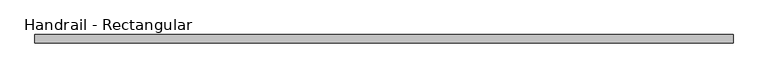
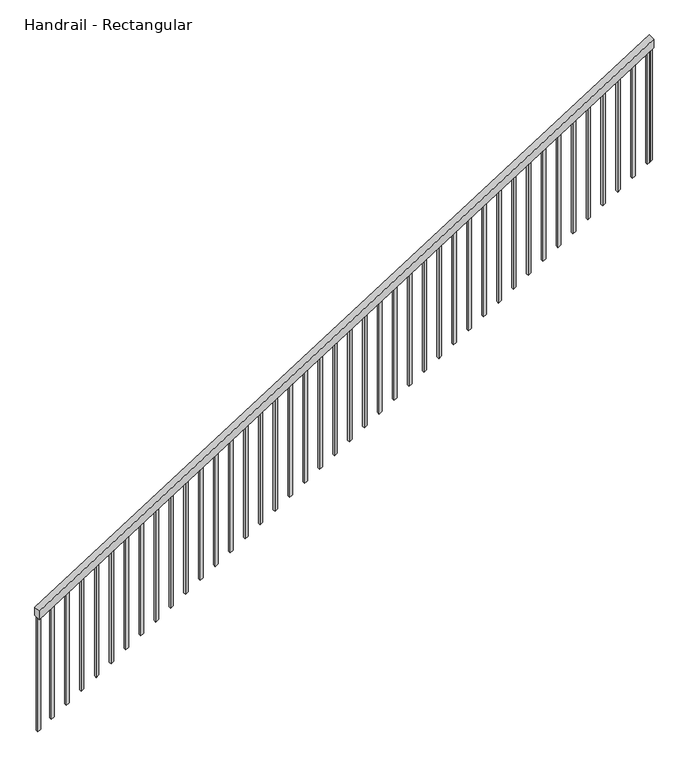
"""IFC4 building model written with IfcOpenShell, lengths in millimetres: railing geometry, Handrail - Rectangular."""

from ifc_helpers import new_model, si_unit, frame, origin, place, context, project, spatial, polyline, outline, extrude, source, transform, mapped, element, save


def handrail_rectangular_0f75e75e(model_context):
    return source(origin(), model_context, "Body", "SweptSolid", [
        extrude(outline(polyline([(914.4, 91186.1359071), (854.2661249, 91186.1359071), (3508.9758023, 95377.1359071), (3569.1096774, 95377.1359071), (914.4, 91186.1359071)])), frame((0.0, -26615.6485124, 0.0), z_axis=(0.0, 1.0, 0.0), x_axis=(0.0, 0.0, 1.0)), (0.0, 0.0, 1.0), 50.8),
        extrude(outline(polyline([(3498.9200838, 95361.2609071), (3486.8532217, 95342.2109071), (2670.3309214, 95342.2109071), (2682.3977835, 95361.2609071), (3498.9200838, 95361.2609071)])), frame((0.0, -26599.7735124, 0.0), z_axis=(0.0, 1.0, 0.0), x_axis=(0.0, 0.0, 1.0)), (0.0, 0.0, 1.0), 19.05),
        extrude(outline(polyline([(3434.5634856, 95259.6609071), (3422.4966234, 95240.6109071), (2605.9743231, 95240.6109071), (2618.0411853, 95259.6609071), (3434.5634856, 95259.6609071)])), frame((0.0, -26599.7735124, 0.0), z_axis=(0.0, 1.0, 0.0), x_axis=(0.0, 0.0, 1.0)), (0.0, 0.0, 1.0), 19.05),
        extrude(outline(polyline([(3370.2068874, 95158.0609071), (3358.1400252, 95139.0109071), (2541.6177249, 95139.0109071), (2553.6845871, 95158.0609071), (3370.2068874, 95158.0609071)])), frame((0.0, -26599.7735124, 0.0), z_axis=(0.0, 1.0, 0.0), x_axis=(0.0, 0.0, 1.0)), (0.0, 0.0, 1.0), 19.05),
        extrude(outline(polyline([(3305.8502891, 95056.4609071), (3293.783427, 95037.4109071), (2477.2611267, 95037.4109071), (2489.3279888, 95056.4609071), (3305.8502891, 95056.4609071)])), frame((0.0, -26599.7735124, 0.0), z_axis=(0.0, 1.0, 0.0), x_axis=(0.0, 0.0, 1.0)), (0.0, 0.0, 1.0), 19.05),
        extrude(outline(polyline([(3241.4936909, 94954.8609071), (3229.4268287, 94935.8109071), (2412.9045284, 94935.8109071), (2424.9713906, 94954.8609071), (3241.4936909, 94954.8609071)])), frame((0.0, -26599.7735124, 0.0), z_axis=(0.0, 1.0, 0.0), x_axis=(0.0, 0.0, 1.0)), (0.0, 0.0, 1.0), 19.05),
        extrude(outline(polyline([(3177.1370926, 94853.2609071), (3165.0702305, 94834.2109071), (2348.5479302, 94834.2109071), (2360.6147923, 94853.2609071), (3177.1370926, 94853.2609071)])), frame((0.0, -26599.7735124, 0.0), z_axis=(0.0, 1.0, 0.0), x_axis=(0.0, 0.0, 1.0)), (0.0, 0.0, 1.0), 19.05),
        extrude(outline(polyline([(3112.7804944, 94751.6609071), (3100.7136322, 94732.6109071), (2284.1913319, 94732.6109071), (2296.2581941, 94751.6609071), (3112.7804944, 94751.6609071)])), frame((0.0, -26599.7735124, 0.0), z_axis=(0.0, 1.0, 0.0), x_axis=(0.0, 0.0, 1.0)), (0.0, 0.0, 1.0), 19.05),
        extrude(outline(polyline([(3048.4238962, 94650.0609071), (3036.357034, 94631.0109071), (2219.8347337, 94631.0109071), (2231.9015959, 94650.0609071), (3048.4238962, 94650.0609071)])), frame((0.0, -26599.7735124, 0.0), z_axis=(0.0, 1.0, 0.0), x_axis=(0.0, 0.0, 1.0)), (0.0, 0.0, 1.0), 19.05),
        extrude(outline(polyline([(2984.0672979, 94548.4609071), (2972.0004358, 94529.4109071), (2155.4781355, 94529.4109071), (2167.5449976, 94548.4609071), (2984.0672979, 94548.4609071)])), frame((0.0, -26599.7735124, 0.0), z_axis=(0.0, 1.0, 0.0), x_axis=(0.0, 0.0, 1.0)), (0.0, 0.0, 1.0), 19.05),
        extrude(outline(polyline([(2919.7106997, 94446.8609071), (2907.6438375, 94427.8109071), (2091.1215372, 94427.8109071), (2103.1883994, 94446.8609071), (2919.7106997, 94446.8609071)])), frame((0.0, -26599.7735124, 0.0), z_axis=(0.0, 1.0, 0.0), x_axis=(0.0, 0.0, 1.0)), (0.0, 0.0, 1.0), 19.05),
        extrude(outline(polyline([(2855.3541014, 94345.2609071), (2843.2872393, 94326.2109071), (2026.764939, 94326.2109071), (2038.8318011, 94345.2609071), (2855.3541014, 94345.2609071)])), frame((0.0, -26599.7735124, 0.0), z_axis=(0.0, 1.0, 0.0), x_axis=(0.0, 0.0, 1.0)), (0.0, 0.0, 1.0), 19.05),
        extrude(outline(polyline([(2790.9975032, 94243.6609071), (2778.930641, 94224.6109071), (1962.4083407, 94224.6109071), (1974.4752029, 94243.6609071), (2790.9975032, 94243.6609071)])), frame((0.0, -26599.7735124, 0.0), z_axis=(0.0, 1.0, 0.0), x_axis=(0.0, 0.0, 1.0)), (0.0, 0.0, 1.0), 19.05),
        extrude(outline(polyline([(2726.640905, 94142.0609071), (2714.5740428, 94123.0109071), (1898.0517425, 94123.0109071), (1910.1186047, 94142.0609071), (2726.640905, 94142.0609071)])), frame((0.0, -26599.7735124, 0.0), z_axis=(0.0, 1.0, 0.0), x_axis=(0.0, 0.0, 1.0)), (0.0, 0.0, 1.0), 19.05),
        extrude(outline(polyline([(2662.2843067, 94040.4609071), (2650.2174446, 94021.4109071), (1833.6951443, 94021.4109071), (1845.7620064, 94040.4609071), (2662.2843067, 94040.4609071)])), frame((0.0, -26599.7735124, 0.0), z_axis=(0.0, 1.0, 0.0), x_axis=(0.0, 0.0, 1.0)), (0.0, 0.0, 1.0), 19.05),
        extrude(outline(polyline([(2597.9277085, 93938.8609071), (2585.8608463, 93919.8109071), (1769.338546, 93919.8109071), (1781.4054082, 93938.8609071), (2597.9277085, 93938.8609071)])), frame((0.0, -26599.7735124, 0.0), z_axis=(0.0, 1.0, 0.0), x_axis=(0.0, 0.0, 1.0)), (0.0, 0.0, 1.0), 19.05),
        extrude(outline(polyline([(2533.5711102, 93837.2609071), (2521.5042481, 93818.2109071), (1704.9819478, 93818.2109071), (1717.0488099, 93837.2609071), (2533.5711102, 93837.2609071)])), frame((0.0, -26599.7735124, 0.0), z_axis=(0.0, 1.0, 0.0), x_axis=(0.0, 0.0, 1.0)), (0.0, 0.0, 1.0), 19.05),
        extrude(outline(polyline([(2469.214512, 93735.6609071), (2457.1476498, 93716.6109071), (1640.6253495, 93716.6109071), (1652.6922117, 93735.6609071), (2469.214512, 93735.6609071)])), frame((0.0, -26599.7735124, 0.0), z_axis=(0.0, 1.0, 0.0), x_axis=(0.0, 0.0, 1.0)), (0.0, 0.0, 1.0), 19.05),
        extrude(outline(polyline([(2404.8579138, 93634.0609071), (2392.7910516, 93615.0109071), (1576.2687513, 93615.0109071), (1588.3356135, 93634.0609071), (2404.8579138, 93634.0609071)])), frame((0.0, -26599.7735124, 0.0), z_axis=(0.0, 1.0, 0.0), x_axis=(0.0, 0.0, 1.0)), (0.0, 0.0, 1.0), 19.05),
        extrude(outline(polyline([(2340.5013155, 93532.4609071), (2328.4344533, 93513.4109071), (1511.912153, 93513.4109071), (1523.9790152, 93532.4609071), (2340.5013155, 93532.4609071)])), frame((0.0, -26599.7735124, 0.0), z_axis=(0.0, 1.0, 0.0), x_axis=(0.0, 0.0, 1.0)), (0.0, 0.0, 1.0), 19.05),
        extrude(outline(polyline([(2276.1447173, 93430.8609071), (2264.0778551, 93411.8109071), (1447.5555548, 93411.8109071), (1459.622417, 93430.8609071), (2276.1447173, 93430.8609071)])), frame((0.0, -26599.7735124, 0.0), z_axis=(0.0, 1.0, 0.0), x_axis=(0.0, 0.0, 1.0)), (0.0, 0.0, 1.0), 19.05),
        extrude(outline(polyline([(2211.788119, 93329.2609071), (2199.7212569, 93310.2109071), (1383.1989566, 93310.2109071), (1395.2658187, 93329.2609071), (2211.788119, 93329.2609071)])), frame((0.0, -26599.7735124, 0.0), z_axis=(0.0, 1.0, 0.0), x_axis=(0.0, 0.0, 1.0)), (0.0, 0.0, 1.0), 19.05),
        extrude(outline(polyline([(2147.4315208, 93227.6609071), (2135.3646586, 93208.6109071), (1318.8423583, 93208.6109071), (1330.9092205, 93227.6609071), (2147.4315208, 93227.6609071)])), frame((0.0, -26599.7735124, 0.0), z_axis=(0.0, 1.0, 0.0), x_axis=(0.0, 0.0, 1.0)), (0.0, 0.0, 1.0), 19.05),
        extrude(outline(polyline([(2083.0749226, 93126.0609071), (2071.0080604, 93107.0109071), (1254.4857601, 93107.0109071), (1266.5526223, 93126.0609071), (2083.0749226, 93126.0609071)])), frame((0.0, -26599.7735124, 0.0), z_axis=(0.0, 1.0, 0.0), x_axis=(0.0, 0.0, 1.0)), (0.0, 0.0, 1.0), 19.05),
        extrude(outline(polyline([(2018.7183243, 93024.4609071), (2006.6514621, 93005.4109071), (1190.1291618, 93005.4109071), (1202.196024, 93024.4609071), (2018.7183243, 93024.4609071)])), frame((0.0, -26599.7735124, 0.0), z_axis=(0.0, 1.0, 0.0), x_axis=(0.0, 0.0, 1.0)), (0.0, 0.0, 1.0), 19.05),
        extrude(outline(polyline([(1954.3617261, 92922.8609071), (1942.2948639, 92903.8109071), (1125.7725636, 92903.8109071), (1137.8394258, 92922.8609071), (1954.3617261, 92922.8609071)])), frame((0.0, -26599.7735124, 0.0), z_axis=(0.0, 1.0, 0.0), x_axis=(0.0, 0.0, 1.0)), (0.0, 0.0, 1.0), 19.05),
        extrude(outline(polyline([(1890.0051278, 92821.2609071), (1877.9382657, 92802.2109071), (1061.4159654, 92802.2109071), (1073.4828275, 92821.2609071), (1890.0051278, 92821.2609071)])), frame((0.0, -26599.7735124, 0.0), z_axis=(0.0, 1.0, 0.0), x_axis=(0.0, 0.0, 1.0)), (0.0, 0.0, 1.0), 19.05),
        extrude(outline(polyline([(1825.6485296, 92719.6609071), (1813.5816674, 92700.6109071), (997.0593671, 92700.6109071), (1009.1262293, 92719.6609071), (1825.6485296, 92719.6609071)])), frame((0.0, -26599.7735124, 0.0), z_axis=(0.0, 1.0, 0.0), x_axis=(0.0, 0.0, 1.0)), (0.0, 0.0, 1.0), 19.05),
        extrude(outline(polyline([(1761.2919314, 92618.0609071), (1749.2250692, 92599.0109071), (932.7027689, 92599.0109071), (944.7696311, 92618.0609071), (1761.2919314, 92618.0609071)])), frame((0.0, -26599.7735124, 0.0), z_axis=(0.0, 1.0, 0.0), x_axis=(0.0, 0.0, 1.0)), (0.0, 0.0, 1.0), 19.05),
        extrude(outline(polyline([(1696.9353331, 92516.4609071), (1684.8684709, 92497.4109071), (868.3461706, 92497.4109071), (880.4130328, 92516.4609071), (1696.9353331, 92516.4609071)])), frame((0.0, -26599.7735124, 0.0), z_axis=(0.0, 1.0, 0.0), x_axis=(0.0, 0.0, 1.0)), (0.0, 0.0, 1.0), 19.05),
        extrude(outline(polyline([(1632.5787349, 92414.8609071), (1620.5118727, 92395.8109071), (803.9895724, 92395.8109071), (816.0564346, 92414.8609071), (1632.5787349, 92414.8609071)])), frame((0.0, -26599.7735124, 0.0), z_axis=(0.0, 1.0, 0.0), x_axis=(0.0, 0.0, 1.0)), (0.0, 0.0, 1.0), 19.05),
        extrude(outline(polyline([(1568.2221366, 92313.2609071), (1556.1552745, 92294.2109071), (739.6329742, 92294.2109071), (751.6998363, 92313.2609071), (1568.2221366, 92313.2609071)])), frame((0.0, -26599.7735124, 0.0), z_axis=(0.0, 1.0, 0.0), x_axis=(0.0, 0.0, 1.0)), (0.0, 0.0, 1.0), 19.05),
        extrude(outline(polyline([(1503.8655384, 92211.6609071), (1491.7986762, 92192.6109071), (675.2763759, 92192.6109071), (687.3432381, 92211.6609071), (1503.8655384, 92211.6609071)])), frame((0.0, -26599.7735124, 0.0), z_axis=(0.0, 1.0, 0.0), x_axis=(0.0, 0.0, 1.0)), (0.0, 0.0, 1.0), 19.05),
        extrude(outline(polyline([(1439.5089402, 92110.0609071), (1427.442078, 92091.0109071), (610.9197777, 92091.0109071), (622.9866399, 92110.0609071), (1439.5089402, 92110.0609071)])), frame((0.0, -26599.7735124, 0.0), z_axis=(0.0, 1.0, 0.0), x_axis=(0.0, 0.0, 1.0)), (0.0, 0.0, 1.0), 19.05),
        extrude(outline(polyline([(1375.1523419, 92008.4609071), (1363.0854797, 91989.4109071), (546.5631794, 91989.4109071), (558.6300416, 92008.4609071), (1375.1523419, 92008.4609071)])), frame((0.0, -26599.7735124, 0.0), z_axis=(0.0, 1.0, 0.0), x_axis=(0.0, 0.0, 1.0)), (0.0, 0.0, 1.0), 19.05),
        extrude(outline(polyline([(1310.7957437, 91906.8609071), (1298.7288815, 91887.8109071), (482.2065812, 91887.8109071), (494.2734434, 91906.8609071), (1310.7957437, 91906.8609071)])), frame((0.0, -26599.7735124, 0.0), z_axis=(0.0, 1.0, 0.0), x_axis=(0.0, 0.0, 1.0)), (0.0, 0.0, 1.0), 19.05),
        extrude(outline(polyline([(1246.4391454, 91805.2609071), (1234.3722833, 91786.2109071), (417.849983, 91786.2109071), (429.9168451, 91805.2609071), (1246.4391454, 91805.2609071)])), frame((0.0, -26599.7735124, 0.0), z_axis=(0.0, 1.0, 0.0), x_axis=(0.0, 0.0, 1.0)), (0.0, 0.0, 1.0), 19.05),
        extrude(outline(polyline([(1182.0825472, 91703.6609071), (1170.015685, 91684.6109071), (353.4933847, 91684.6109071), (365.5602469, 91703.6609071), (1182.0825472, 91703.6609071)])), frame((0.0, -26599.7735124, 0.0), z_axis=(0.0, 1.0, 0.0), x_axis=(0.0, 0.0, 1.0)), (0.0, 0.0, 1.0), 19.05),
        extrude(outline(polyline([(1117.7259489, 91602.0609071), (1105.6590868, 91583.0109071), (289.1367865, 91583.0109071), (301.2036486, 91602.0609071), (1117.7259489, 91602.0609071)])), frame((0.0, -26599.7735124, 0.0), z_axis=(0.0, 1.0, 0.0), x_axis=(0.0, 0.0, 1.0)), (0.0, 0.0, 1.0), 19.05),
        extrude(outline(polyline([(1053.3693507, 91500.4609071), (1041.3024885, 91481.4109071), (224.7801882, 91481.4109071), (236.8470504, 91500.4609071), (1053.3693507, 91500.4609071)])), frame((0.0, -26599.7735124, 0.0), z_axis=(0.0, 1.0, 0.0), x_axis=(0.0, 0.0, 1.0)), (0.0, 0.0, 1.0), 19.05),
        extrude(outline(polyline([(989.0127525, 91398.8609071), (976.9458903, 91379.8109071), (160.42359, 91379.8109071), (172.4904522, 91398.8609071), (989.0127525, 91398.8609071)])), frame((0.0, -26599.7735124, 0.0), z_axis=(0.0, 1.0, 0.0), x_axis=(0.0, 0.0, 1.0)), (0.0, 0.0, 1.0), 19.05),
        extrude(outline(polyline([(924.6561542, 91297.2609071), (912.5892921, 91278.2109071), (96.0669918, 91278.2109071), (108.1338539, 91297.2609071), (924.6561542, 91297.2609071)])), frame((0.0, -26599.7735124, 0.0), z_axis=(0.0, 1.0, 0.0), x_axis=(0.0, 0.0, 1.0)), (0.0, 0.0, 1.0), 19.05),
        extrude(outline(polyline([(3508.9758023, 95377.1359071), (3496.9089402, 95358.0859071), (2680.3866399, 95358.0859071), (2692.453502, 95377.1359071), (3508.9758023, 95377.1359071)])), frame((0.0, -26599.7735124, 0.0), z_axis=(0.0, 1.0, 0.0), x_axis=(0.0, 0.0, 1.0)), (0.0, 0.0, 1.0), 19.05),
        extrude(outline(polyline([(866.3329871, 91205.1859071), (854.2661249, 91186.1359071), (37.7438246, 91186.1359071), (49.8106868, 91205.1859071), (866.3329871, 91205.1859071)])), frame((0.0, -26599.7735124, 0.0), z_axis=(0.0, 1.0, 0.0), x_axis=(0.0, 0.0, 1.0)), (0.0, 0.0, 1.0), 19.05),
    ])


if __name__ == "__main__":
    model = new_model("IFC4")
    model_context = context("Model", 3, world=origin())
    ifc_project = project(units=[si_unit("LENGTHUNIT", "METRE", prefix="MILLI")], contexts=[model_context])
    site = spatial("IfcSite", under=ifc_project)
    building = spatial("IfcBuilding", under=site)
    placement = place(None, origin())
    handrail_rectangular_shape = handrail_rectangular_0f75e75e(model_context)
    element("IfcRailing", 1, ObjectType="Handrail - Rectangular", at=placement, inside=building, context=model_context, shape_type="MappedRepresentation", body=[
        mapped(handrail_rectangular_shape, transform((0.0, 0.0, 0.0), x_axis=(1.0, 0.0, 0.0), y_axis=(0.0, 1.0, 0.0), z_axis=(0.0, 0.0, 1.0))),
    ])
    save(model, "model.ifc")
